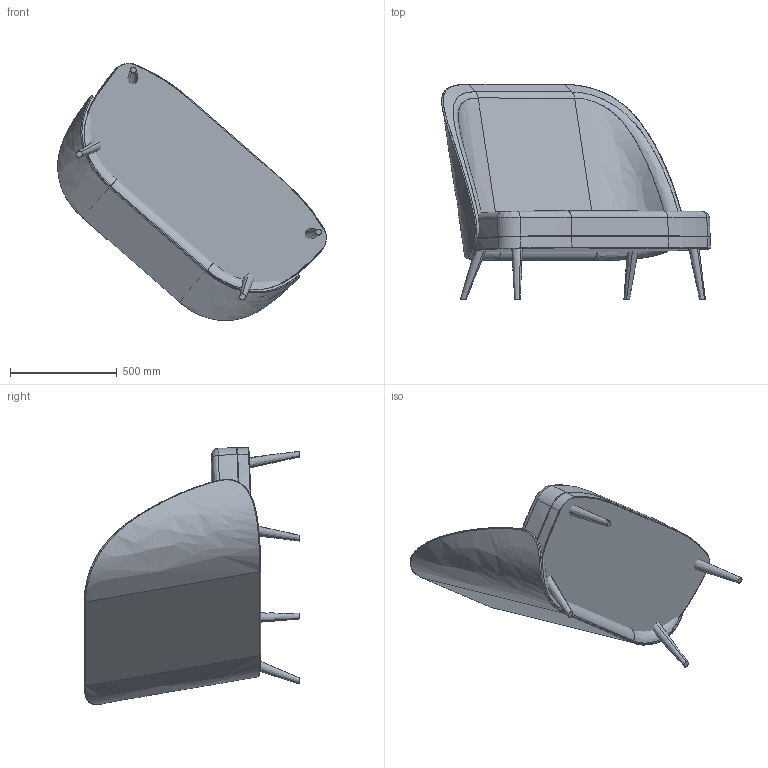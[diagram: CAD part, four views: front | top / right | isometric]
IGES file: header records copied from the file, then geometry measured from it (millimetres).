
Start section: SolidWorks IGES file using analytic representation for surfaces
Global section: file name: C:\Users\Mateus.JMS\Documents\TRABALHO\DESENHO TÉCNICO\JMS\ALISSA\Poltrona Alissa _A941D\3D Reboleira Poltronas\Poltrona Lana_A977D.IGS; native system: SolidWorks 2019; preprocessor: SolidWorks 2019; author: Mateus; date: 200305.105202; units: millimetre
Bounding box: 1260.07 x 1011.12 x 1206.16 mm (x, y, z)
Surface area: 5759798 mm2 (no closed solid volume)
Topology: 0 solids, 0 shells, 142 faces, 3644 edges, 3644 vertices
Faces by surface type: bspline 76, revolution 66
